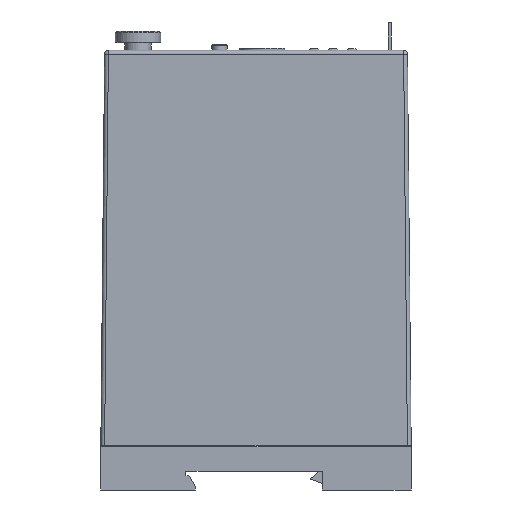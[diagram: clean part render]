
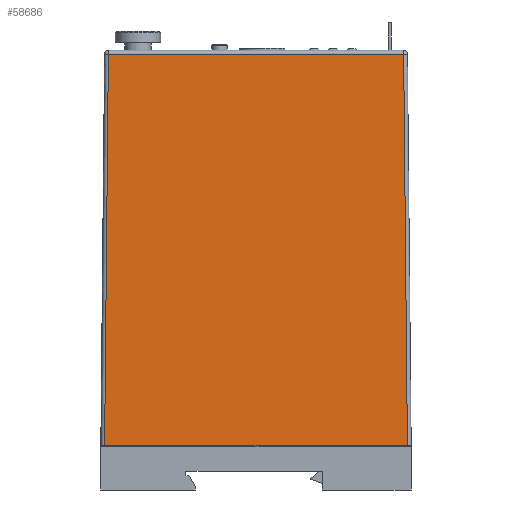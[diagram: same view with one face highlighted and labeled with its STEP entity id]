
A CAD part, left-side view. The second image highlights one B-rep face of the part: STEP entity #58686.
In plain terms, the highlighted planar face has unit normal (-1, 0, 0.017).
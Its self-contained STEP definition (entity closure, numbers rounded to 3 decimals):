
#5697 = CARTESIAN_POINT ( 'NONE',  ( 1.734, 81., 103.517 ) ) ;
#6061 = AXIS2_PLACEMENT_3D ( 'NONE', #134547, #76929, #7771 ) ;
#6816 = CARTESIAN_POINT ( 'NONE',  ( 1.763, 79.993, 105.265 ) ) ;
#7771 = DIRECTION ( 'NONE',  ( 0., -1., 0. ) ) ;
#14073 = VERTEX_POINT ( 'NONE', #143896 ) ;
#14530 = DIRECTION ( 'NONE',  ( 0., -1., 0. ) ) ;
#16459 = CARTESIAN_POINT ( 'NONE',  ( 0., 81., 0. ) ) ;
#18993 = EDGE_CURVE ( 'NONE', #101610, #54832, #42788, .T. ) ;
#19071 = VECTOR ( 'NONE', #61181, 1000. ) ;
#21168 = ORIENTED_EDGE ( 'NONE', *, *, #18993, .T. ) ;
#23840 = EDGE_LOOP ( 'NONE', ( #61618, #35893, #21168, #140702 ) ) ;
#35893 = ORIENTED_EDGE ( 'NONE', *, *, #59131, .T. ) ;
#37983 = CARTESIAN_POINT ( 'NONE',  ( 1.75, 2., 104.481 ) ) ;
#42788 = LINE ( 'NONE', #5697, #131286 ) ;
#51784 = EDGE_CURVE ( 'NONE', #54832, #121305, #133787, .T. ) ;
#53717 = PLANE ( 'NONE',  #6061 ) ;
#54770 = DIRECTION ( 'NONE',  ( -0.017, 0.01, -1. ) ) ;
#54832 = VERTEX_POINT ( 'NONE', #79188 ) ;
#55212 = CARTESIAN_POINT ( 'NONE',  ( 1.734, 1.99, 103.517 ) ) ;
#58686 = ADVANCED_FACE ( 'NONE', ( #76969 ), #53717, .F. ) ;
#59131 = EDGE_CURVE ( 'NONE', #14073, #101610, #107620, .T. ) ;
#61181 = DIRECTION ( 'NONE',  ( 0.017, 0.01, 1. ) ) ;
#61618 = ORIENTED_EDGE ( 'NONE', *, *, #99204, .T. ) ;
#74860 = DIRECTION ( 'NONE',  ( 0., 1., 0. ) ) ;
#75924 = VECTOR ( 'NONE', #54770, 1000. ) ;
#76929 = DIRECTION ( 'NONE',  ( 1., 0., -0.017 ) ) ;
#76969 = FACE_OUTER_BOUND ( 'NONE', #23840, .T. ) ;
#79188 = CARTESIAN_POINT ( 'NONE',  ( 1.734, 80.01, 103.517 ) ) ;
#93277 = VECTOR ( 'NONE', #14530, 1000. ) ;
#99204 = EDGE_CURVE ( 'NONE', #121305, #14073, #123987, .T. ) ;
#101610 = VERTEX_POINT ( 'NONE', #55212 ) ;
#107620 = LINE ( 'NONE', #37983, #19071 ) ;
#121305 = VERTEX_POINT ( 'NONE', #16459 ) ;
#123987 = LINE ( 'NONE', #129607, #93277 ) ;
#129607 = CARTESIAN_POINT ( 'NONE',  ( 0., 0., 0. ) ) ;
#131286 = VECTOR ( 'NONE', #74860, 1000. ) ;
#133787 = LINE ( 'NONE', #6816, #75924 ) ;
#134547 = CARTESIAN_POINT ( 'NONE',  ( 1.75, 0., 104.5 ) ) ;
#140702 = ORIENTED_EDGE ( 'NONE', *, *, #51784, .T. ) ;
#143896 = CARTESIAN_POINT ( 'NONE',  ( 0., 1., 0. ) ) ;
